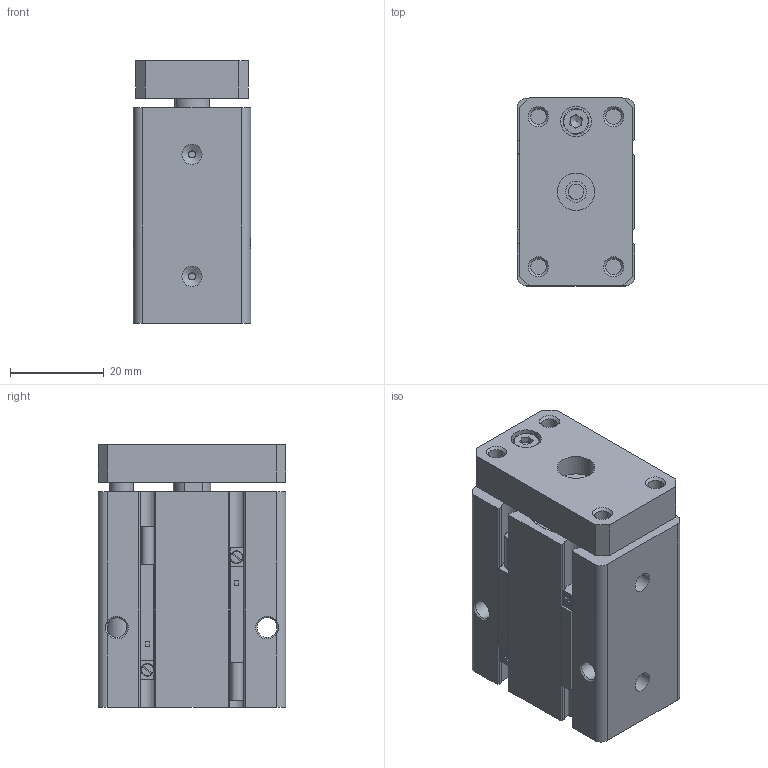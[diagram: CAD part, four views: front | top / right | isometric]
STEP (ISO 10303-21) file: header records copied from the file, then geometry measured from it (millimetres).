
FILE_DESCRIPTION (( 'STEP AP203' ), '1' );
FILE_NAME ('NCON-M10W.STEP', '2019-08-16T07:58:17', ( '' ), ( '' ), 'SwSTEP 2.0', 'SolidWorks 2018', '' );
FILE_SCHEMA (( 'CONFIG_CONTROL_DESIGN' ));
Length unit declared in the file: millimetre
Products named in the file (2): NCON-M10W
Bounding box: 25 x 40 x 56 mm (x, y, z)
Volume: 48232.4 mm3; surface area: 16484.7 mm2
Topology: 9 solids, 12 shells, 227 faces, 535 edges, 347 vertices
Faces by surface type: plane 117, cylinder 72, cone 27, torus 7, bspline 4
Full cylindrical faces by diameter (mm): 1.5 x2, 2 x4, 2.5 x3, 2.7 x4, 3 x1, 3.3 x5, 3.4 x1, 4.2 x3, 4.3 x2, 4.5 x1, 5 x2, 5.5 x1, 6.5 x1, 7 x1, 8 x3, 20 x2, 21 x4, 22 x2
Entity records: 6447 total; most frequent: CARTESIAN_POINT 1431, DIRECTION 1022, ORIENTED_EDGE 866, EDGE_CURVE 433, AXIS2_PLACEMENT_3D 394, EDGE_LOOP 346, VERTEX_POINT 317, FACE_OUTER_BOUND 276
